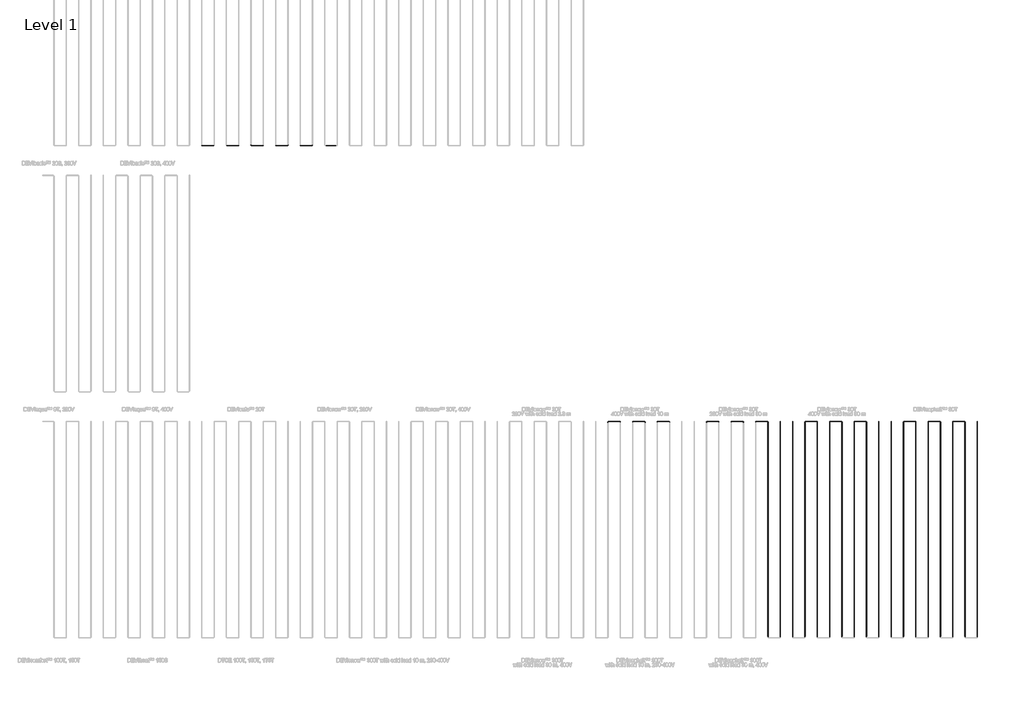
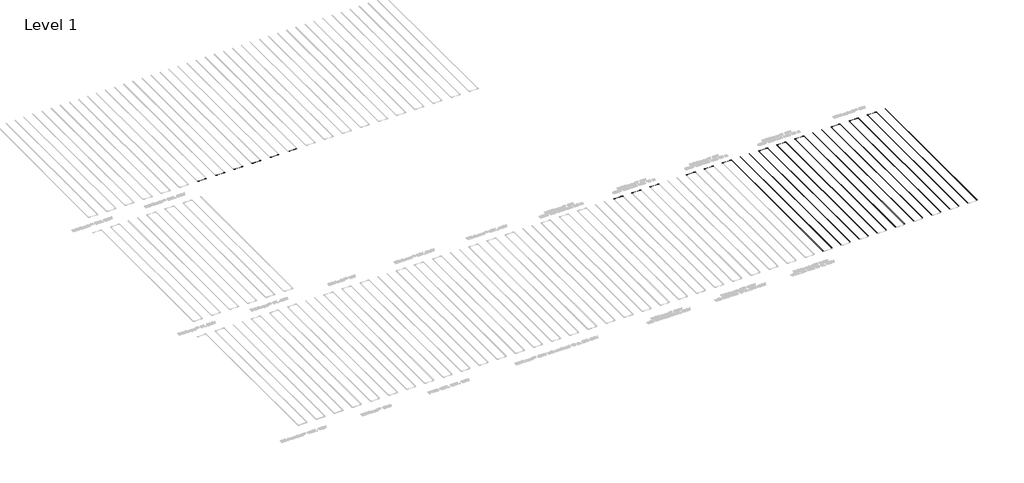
# One storey, part 7 of 26: 36 cable carrier segments, 34 cable carrier fittings.
"""IFC4 building model written with IfcOpenShell, lengths in millimetres."""

from ifc_helpers import new_model, si_unit, point, frame, frame_2d, origin, place, context, project, spatial, circle_curve, trimmed, segment, composite_curve, outline, extrude, transform, mapped, element, save
from components import cable_carrier_fitting_e4b1aeb6

model = new_model("IFC4")

# Units and contexts
model_context = context("Model", 3, world=origin())
ifc_project = project(units=[si_unit("LENGTHUNIT", "METRE", prefix="MILLI")], contexts=[model_context])

# Site, building, storey
site = spatial("IfcSite", under=ifc_project)
building = spatial("IfcBuilding", under=site)
storey = spatial("IfcBuildingStorey", under=building, Name="Level 1", Elevation=0.0)

# Cable carrier fittings
placement = place(None, origin())
cable_carrier_fitting_shape = cable_carrier_fitting_e4b1aeb6(model_context)
element("IfcCableCarrierFitting", 1, ObjectType="Danfoss Elbow : DEVIflex™ 30T", at=placement, inside=storey, context=model_context, shape_type="MappedRepresentation", body=[
    mapped(cable_carrier_fitting_shape, transform((412.6597555, -6738.7894079, -100.0), x_axis=(0.0, -1.0, 0.0), y_axis=(1.0, 0.0, 0.0), z_axis=(0.0, 0.0, 1.0))),
])
element("IfcCableCarrierFitting", 2, ObjectType="Danfoss Elbow : DEVIflex™ 30T", at=placement, inside=storey, context=model_context, shape_type="MappedRepresentation", body=[
    mapped(cable_carrier_fitting_shape, transform((912.6597555, -6738.7894079, -100.0), x_axis=(1.0, 0.0, 0.0), y_axis=(0.0, 1.0, 0.0), z_axis=(0.0, 0.0, 1.0))),
])
element("IfcCableCarrierFitting", 3, ObjectType="Danfoss Elbow : DEVIflex™ 30T", at=placement, inside=storey, context=model_context, shape_type="MappedRepresentation", body=[
    mapped(cable_carrier_fitting_shape, transform((1412.6597555, -6738.7894079, -100.0), x_axis=(0.0, -1.0, 0.0), y_axis=(1.0, 0.0, 0.0), z_axis=(0.0, 0.0, 1.0))),
])
element("IfcCableCarrierFitting", 4, ObjectType="Danfoss Elbow : DEVIflex™ 30T", at=placement, inside=storey, context=model_context, shape_type="MappedRepresentation", body=[
    mapped(cable_carrier_fitting_shape, transform((1912.6597555, -6738.7894079, -100.0), x_axis=(1.0, 0.0, 0.0), y_axis=(0.0, 1.0, 0.0), z_axis=(0.0, 0.0, 1.0))),
])
element("IfcCableCarrierFitting", 5, ObjectType="Danfoss Elbow : DEVIflex™ 30T", at=placement, inside=storey, context=model_context, shape_type="MappedRepresentation", body=[
    mapped(cable_carrier_fitting_shape, transform((2412.6597555, -6738.7894079, -100.0), x_axis=(0.0, -1.0, 0.0), y_axis=(1.0, 0.0, 0.0), z_axis=(0.0, 0.0, 1.0))),
])
element("IfcCableCarrierFitting", 6, ObjectType="Danfoss Elbow : DEVIflex™ 30T", at=placement, inside=storey, context=model_context, shape_type="MappedRepresentation", body=[
    mapped(cable_carrier_fitting_shape, transform((2912.6597555, -6738.7894079, -100.0), x_axis=(1.0, 0.0, 0.0), y_axis=(0.0, 1.0, 0.0), z_axis=(0.0, 0.0, 1.0))),
])
element("IfcCableCarrierFitting", 7, ObjectType="Danfoss Elbow : DEVIflex™ 30T", at=placement, inside=storey, context=model_context, shape_type="MappedRepresentation", body=[
    mapped(cable_carrier_fitting_shape, transform((3412.6597555, -6738.7894079, -100.0), x_axis=(0.0, -1.0, 0.0), y_axis=(1.0, 0.0, 0.0), z_axis=(0.0, 0.0, 1.0))),
])
element("IfcCableCarrierFitting", 8, ObjectType="Danfoss Elbow : DEVIflex™ 30T", at=placement, inside=storey, context=model_context, shape_type="MappedRepresentation", body=[
    mapped(cable_carrier_fitting_shape, transform((3912.6597555, -6738.7894079, -100.0), x_axis=(1.0, 0.0, 0.0), y_axis=(0.0, 1.0, 0.0), z_axis=(0.0, 0.0, 1.0))),
])
element("IfcCableCarrierFitting", 9, ObjectType="Danfoss Elbow : DEVIiceguard™ 18 (T) Ready-made", at=placement, inside=storey, context=model_context, shape_type="MappedRepresentation", body=[
    mapped(cable_carrier_fitting_shape, transform((4412.6597555, -6738.7894079, -100.0), x_axis=(0.0, -1.0, 0.0), y_axis=(1.0, 0.0, 0.0), z_axis=(0.0, 0.0, 1.0))),
])
element("IfcCableCarrierFitting", 10, ObjectType="Danfoss Elbow : DEVIiceguard™ 18 (T) Ready-made", at=placement, inside=storey, context=model_context, shape_type="MappedRepresentation", body=[
    mapped(cable_carrier_fitting_shape, transform((4912.6597555, -6738.7894079, -100.0), x_axis=(1.0, 0.0, 0.0), y_axis=(0.0, 1.0, 0.0), z_axis=(0.0, 0.0, 1.0))),
])
element("IfcCableCarrierFitting", 11, ObjectType="Danfoss Elbow : DEVIsnow™ 30T, 400V with cold lead 10 m", at=placement, inside=storey, context=model_context, shape_type="MappedRepresentation", body=[
    mapped(cable_carrier_fitting_shape, transform((16912.6597555, -17938.7894079, -100.0), x_axis=(-1.0, 0.0, 0.0), y_axis=(0.0, -1.0, 0.0), z_axis=(0.0, 0.0, 1.0))),
])
element("IfcCableCarrierFitting", 12, ObjectType="Danfoss Elbow : DEVIsnow™ 30T, 400V with cold lead 10 m", at=placement, inside=storey, context=model_context, shape_type="MappedRepresentation", body=[
    mapped(cable_carrier_fitting_shape, transform((17412.6597555, -17938.7894079, -100.0), x_axis=(0.0, 1.0, 0.0), y_axis=(-1.0, 0.0, 0.0), z_axis=(0.0, 0.0, 1.0))),
])
element("IfcCableCarrierFitting", 13, ObjectType="Danfoss Elbow : DEVIsnow™ 30T, 400V with cold lead 10 m", at=placement, inside=storey, context=model_context, shape_type="MappedRepresentation", body=[
    mapped(cable_carrier_fitting_shape, transform((17912.6597555, -17938.7894079, -100.0), x_axis=(-1.0, 0.0, 0.0), y_axis=(0.0, -1.0, 0.0), z_axis=(0.0, 0.0, 1.0))),
])
element("IfcCableCarrierFitting", 14, ObjectType="Danfoss Elbow : DEVIsnow™ 30T, 400V with cold lead 10 m", at=placement, inside=storey, context=model_context, shape_type="MappedRepresentation", body=[
    mapped(cable_carrier_fitting_shape, transform((18412.6597555, -17938.7894079, -100.0), x_axis=(0.0, 1.0, 0.0), y_axis=(-1.0, 0.0, 0.0), z_axis=(0.0, 0.0, 1.0))),
])
element("IfcCableCarrierFitting", 15, ObjectType="Danfoss Elbow : DEVIsnow™ 30T, 400V with cold lead 10 m", at=placement, inside=storey, context=model_context, shape_type="MappedRepresentation", body=[
    mapped(cable_carrier_fitting_shape, transform((18912.6597555, -17938.7894079, -100.0), x_axis=(-1.0, 0.0, 0.0), y_axis=(0.0, -1.0, 0.0), z_axis=(0.0, 0.0, 1.0))),
])
element("IfcCableCarrierFitting", 16, ObjectType="Danfoss Elbow : DEVIsnow™ 30T, 400V with cold lead 10 m", at=placement, inside=storey, context=model_context, shape_type="MappedRepresentation", body=[
    mapped(cable_carrier_fitting_shape, transform((19412.6597555, -17938.7894079, -100.0), x_axis=(0.0, 1.0, 0.0), y_axis=(-1.0, 0.0, 0.0), z_axis=(0.0, 0.0, 1.0))),
])
element("IfcCableCarrierFitting", 17, ObjectType="Danfoss Elbow : DEVIsnow™ 30T, 230V with cold lead 30 m", at=placement, inside=storey, context=model_context, shape_type="MappedRepresentation", body=[
    mapped(cable_carrier_fitting_shape, transform((20912.6597555, -17938.7894079, -100.0), x_axis=(-1.0, 0.0, 0.0), y_axis=(0.0, -1.0, 0.0), z_axis=(0.0, 0.0, 1.0))),
])
element("IfcCableCarrierFitting", 18, ObjectType="Danfoss Elbow : DEVIsnow™ 30T, 230V with cold lead 30 m", at=placement, inside=storey, context=model_context, shape_type="MappedRepresentation", body=[
    mapped(cable_carrier_fitting_shape, transform((21412.6597555, -17938.7894079, -100.0), x_axis=(0.0, 1.0, 0.0), y_axis=(-1.0, 0.0, 0.0), z_axis=(0.0, 0.0, 1.0))),
])
element("IfcCableCarrierFitting", 19, ObjectType="Danfoss Elbow : DEVIsnow™ 30T, 230V with cold lead 30 m", at=placement, inside=storey, context=model_context, shape_type="MappedRepresentation", body=[
    mapped(cable_carrier_fitting_shape, transform((21912.6597555, -17938.7894079, -100.0), x_axis=(-1.0, 0.0, 0.0), y_axis=(0.0, -1.0, 0.0), z_axis=(0.0, 0.0, 1.0))),
])
element("IfcCableCarrierFitting", 20, ObjectType="Danfoss Elbow : DEVIsnow™ 30T, 230V with cold lead 30 m", at=placement, inside=storey, context=model_context, shape_type="MappedRepresentation", body=[
    mapped(cable_carrier_fitting_shape, transform((22412.6597555, -17938.7894079, -100.0), x_axis=(0.0, 1.0, 0.0), y_axis=(-1.0, 0.0, 0.0), z_axis=(0.0, 0.0, 1.0))),
])
element("IfcCableCarrierFitting", 21, ObjectType="Danfoss Elbow : DEVIsnow™ 30T, 230V with cold lead 30 m", at=placement, inside=storey, context=model_context, shape_type="MappedRepresentation", body=[
    mapped(cable_carrier_fitting_shape, transform((22912.6597555, -17938.7894079, -100.0), x_axis=(-1.0, 0.0, 0.0), y_axis=(0.0, -1.0, 0.0), z_axis=(0.0, 0.0, 1.0))),
])
element("IfcCableCarrierFitting", 22, ObjectType="Danfoss Elbow : DEVIsnow™ 30T, 230V with cold lead 30 m", at=placement, inside=storey, context=model_context, shape_type="MappedRepresentation", body=[
    mapped(cable_carrier_fitting_shape, transform((23412.6597555, -17938.7894079, -100.0), x_axis=(0.0, 1.0, 0.0), y_axis=(-1.0, 0.0, 0.0), z_axis=(0.0, 0.0, 1.0))),
])
element("IfcCableCarrierFitting", 23, ObjectType="Danfoss Elbow : DEVIsnow™ 30T, 400V with cold lead 30 m", at=placement, inside=storey, context=model_context, shape_type="MappedRepresentation", body=[
    mapped(cable_carrier_fitting_shape, transform((24912.6597555, -17938.7894079, -100.0), x_axis=(-1.0, 0.0, 0.0), y_axis=(0.0, -1.0, 0.0), z_axis=(0.0, 0.0, 1.0))),
])
element("IfcCableCarrierFitting", 24, ObjectType="Danfoss Elbow : DEVIsnow™ 30T, 400V with cold lead 30 m", at=placement, inside=storey, context=model_context, shape_type="MappedRepresentation", body=[
    mapped(cable_carrier_fitting_shape, transform((25412.6597555, -17938.7894079, -100.0), x_axis=(0.0, 1.0, 0.0), y_axis=(-1.0, 0.0, 0.0), z_axis=(0.0, 0.0, 1.0))),
])
element("IfcCableCarrierFitting", 25, ObjectType="Danfoss Elbow : DEVIsnow™ 30T, 400V with cold lead 30 m", at=placement, inside=storey, context=model_context, shape_type="MappedRepresentation", body=[
    mapped(cable_carrier_fitting_shape, transform((25912.6597555, -17938.7894079, -100.0), x_axis=(-1.0, 0.0, 0.0), y_axis=(0.0, -1.0, 0.0), z_axis=(0.0, 0.0, 1.0))),
])
element("IfcCableCarrierFitting", 26, ObjectType="Danfoss Elbow : DEVIsnow™ 30T, 400V with cold lead 30 m", at=placement, inside=storey, context=model_context, shape_type="MappedRepresentation", body=[
    mapped(cable_carrier_fitting_shape, transform((26412.6597555, -17938.7894079, -100.0), x_axis=(0.0, 1.0, 0.0), y_axis=(-1.0, 0.0, 0.0), z_axis=(0.0, 0.0, 1.0))),
])
element("IfcCableCarrierFitting", 27, ObjectType="Danfoss Elbow : DEVIsnow™ 30T, 400V with cold lead 30 m", at=placement, inside=storey, context=model_context, shape_type="MappedRepresentation", body=[
    mapped(cable_carrier_fitting_shape, transform((26912.6597555, -17938.7894079, -100.0), x_axis=(-1.0, 0.0, 0.0), y_axis=(0.0, -1.0, 0.0), z_axis=(0.0, 0.0, 1.0))),
])
element("IfcCableCarrierFitting", 28, ObjectType="Danfoss Elbow : DEVIsnow™ 30T, 400V with cold lead 30 m", at=placement, inside=storey, context=model_context, shape_type="MappedRepresentation", body=[
    mapped(cable_carrier_fitting_shape, transform((27412.6597555, -17938.7894079, -100.0), x_axis=(0.0, 1.0, 0.0), y_axis=(-1.0, 0.0, 0.0), z_axis=(0.0, 0.0, 1.0))),
])
element("IfcCableCarrierFitting", 29, ObjectType="Danfoss Elbow : DEVIasphalt™ 30T", at=placement, inside=storey, context=model_context, shape_type="MappedRepresentation", body=[
    mapped(cable_carrier_fitting_shape, transform((28912.6597555, -17938.7894079, -100.0), x_axis=(-1.0, 0.0, 0.0), y_axis=(0.0, -1.0, 0.0), z_axis=(0.0, 0.0, 1.0))),
])
element("IfcCableCarrierFitting", 30, ObjectType="Danfoss Elbow : DEVIasphalt™ 30T", at=placement, inside=storey, context=model_context, shape_type="MappedRepresentation", body=[
    mapped(cable_carrier_fitting_shape, transform((29412.6597555, -17938.7894079, -100.0), x_axis=(0.0, 1.0, 0.0), y_axis=(-1.0, 0.0, 0.0), z_axis=(0.0, 0.0, 1.0))),
])
element("IfcCableCarrierFitting", 31, ObjectType="Danfoss Elbow : DEVIasphalt™ 30T", at=placement, inside=storey, context=model_context, shape_type="MappedRepresentation", body=[
    mapped(cable_carrier_fitting_shape, transform((29912.6597555, -17938.7894079, -100.0), x_axis=(-1.0, 0.0, 0.0), y_axis=(0.0, -1.0, 0.0), z_axis=(0.0, 0.0, 1.0))),
])
element("IfcCableCarrierFitting", 32, ObjectType="Danfoss Elbow : DEVIasphalt™ 30T", at=placement, inside=storey, context=model_context, shape_type="MappedRepresentation", body=[
    mapped(cable_carrier_fitting_shape, transform((30412.6597555, -17938.7894079, -100.0), x_axis=(0.0, 1.0, 0.0), y_axis=(-1.0, 0.0, 0.0), z_axis=(0.0, 0.0, 1.0))),
])
element("IfcCableCarrierFitting", 33, ObjectType="Danfoss Elbow : DEVIasphalt™ 30T", at=placement, inside=storey, context=model_context, shape_type="MappedRepresentation", body=[
    mapped(cable_carrier_fitting_shape, transform((30912.6597555, -17938.7894079, -100.0), x_axis=(-1.0, 0.0, 0.0), y_axis=(0.0, -1.0, 0.0), z_axis=(0.0, 0.0, 1.0))),
])
element("IfcCableCarrierFitting", 34, ObjectType="Danfoss Elbow : DEVIasphalt™ 30T", at=placement, inside=storey, context=model_context, shape_type="MappedRepresentation", body=[
    mapped(cable_carrier_fitting_shape, transform((31412.6597555, -17938.7894079, -100.0), x_axis=(0.0, 1.0, 0.0), y_axis=(-1.0, 0.0, 0.0), z_axis=(0.0, 0.0, 1.0))),
])

# Cable carrier segments
element("IfcCableCarrierSegment", 35, ObjectType="DEVIflex™ 30T", at=placement, inside=storey, context=model_context, shape_type="SweptSolid", body=[
    extrude(outline(composite_curve([segment(trimmed(circle_curve(frame_2d((-6738.7894079, -100.0)), 3.45), [point((-6742.2394079, -100.0))], [point((-6738.7894079, -96.55))], False, "CARTESIAN"), True, "CONTINUOUS"), segment(trimmed(circle_curve(frame_2d((-6738.7894079, -100.0)), 3.45), [point((-6738.7894079, -96.55))], [point((-6735.3394079, -100.0))], False, "CARTESIAN"), True, "CONTINUOUS"), segment(trimmed(circle_curve(frame_2d((-6738.7894079, -100.0)), 3.45), [point((-6735.3394079, -100.0))], [point((-6738.7894079, -103.45))], False, "CARTESIAN"), True, "CONTINUOUS"), segment(trimmed(circle_curve(frame_2d((-6738.7894079, -100.0)), 3.45), [point((-6738.7894079, -103.45))], [point((-6742.2394079, -100.0))], False, "CARTESIAN"), True, "CONTINUOUS")], self_intersect=False)), frame((447.6597555, 0.0, 0.0), z_axis=(1.0, 0.0, 0.0), x_axis=(0.0, 1.0, 0.0)), (0.0, 0.0, 1.0), 430.0),
])
element("IfcCableCarrierSegment", 36, ObjectType="DEVIflex™ 30T", at=placement, inside=storey, context=model_context, shape_type="SweptSolid", body=[
    extrude(outline(composite_curve([segment(trimmed(circle_curve(frame_2d((-6738.7894079, -100.0)), 3.45), [point((-6742.2394079, -100.0))], [point((-6738.7894079, -96.55))], False, "CARTESIAN"), True, "CONTINUOUS"), segment(trimmed(circle_curve(frame_2d((-6738.7894079, -100.0)), 3.45), [point((-6738.7894079, -96.55))], [point((-6735.3394079, -100.0))], False, "CARTESIAN"), True, "CONTINUOUS"), segment(trimmed(circle_curve(frame_2d((-6738.7894079, -100.0)), 3.45), [point((-6735.3394079, -100.0))], [point((-6738.7894079, -103.45))], False, "CARTESIAN"), True, "CONTINUOUS"), segment(trimmed(circle_curve(frame_2d((-6738.7894079, -100.0)), 3.45), [point((-6738.7894079, -103.45))], [point((-6742.2394079, -100.0))], False, "CARTESIAN"), True, "CONTINUOUS")], self_intersect=False)), frame((1447.6597555, 0.0, 0.0), z_axis=(1.0, 0.0, 0.0), x_axis=(0.0, 1.0, 0.0)), (0.0, 0.0, 1.0), 430.0),
])
element("IfcCableCarrierSegment", 37, ObjectType="DEVIflex™ 30T", at=placement, inside=storey, context=model_context, shape_type="SweptSolid", body=[
    extrude(outline(composite_curve([segment(trimmed(circle_curve(frame_2d((-6738.7894079, -100.0)), 3.45), [point((-6742.2394079, -100.0))], [point((-6738.7894079, -96.55))], False, "CARTESIAN"), True, "CONTINUOUS"), segment(trimmed(circle_curve(frame_2d((-6738.7894079, -100.0)), 3.45), [point((-6738.7894079, -96.55))], [point((-6735.3394079, -100.0))], False, "CARTESIAN"), True, "CONTINUOUS"), segment(trimmed(circle_curve(frame_2d((-6738.7894079, -100.0)), 3.45), [point((-6735.3394079, -100.0))], [point((-6738.7894079, -103.45))], False, "CARTESIAN"), True, "CONTINUOUS"), segment(trimmed(circle_curve(frame_2d((-6738.7894079, -100.0)), 3.45), [point((-6738.7894079, -103.45))], [point((-6742.2394079, -100.0))], False, "CARTESIAN"), True, "CONTINUOUS")], self_intersect=False)), frame((2447.6597555, 0.0, 0.0), z_axis=(1.0, 0.0, 0.0), x_axis=(0.0, 1.0, 0.0)), (0.0, 0.0, 1.0), 430.0),
])
element("IfcCableCarrierSegment", 38, ObjectType="DEVIflex™ 30T", at=placement, inside=storey, context=model_context, shape_type="SweptSolid", body=[
    extrude(outline(composite_curve([segment(trimmed(circle_curve(frame_2d((-6738.7894079, -100.0)), 3.45), [point((-6742.2394079, -100.0))], [point((-6738.7894079, -96.55))], False, "CARTESIAN"), True, "CONTINUOUS"), segment(trimmed(circle_curve(frame_2d((-6738.7894079, -100.0)), 3.45), [point((-6738.7894079, -96.55))], [point((-6735.3394079, -100.0))], False, "CARTESIAN"), True, "CONTINUOUS"), segment(trimmed(circle_curve(frame_2d((-6738.7894079, -100.0)), 3.45), [point((-6735.3394079, -100.0))], [point((-6738.7894079, -103.45))], False, "CARTESIAN"), True, "CONTINUOUS"), segment(trimmed(circle_curve(frame_2d((-6738.7894079, -100.0)), 3.45), [point((-6738.7894079, -103.45))], [point((-6742.2394079, -100.0))], False, "CARTESIAN"), True, "CONTINUOUS")], self_intersect=False)), frame((3447.6597555, 0.0, 0.0), z_axis=(1.0, 0.0, 0.0), x_axis=(0.0, 1.0, 0.0)), (0.0, 0.0, 1.0), 430.0),
])
element("IfcCableCarrierSegment", 39, ObjectType="DEVIiceguard™ 18 (T) Ready-made", at=placement, inside=storey, context=model_context, shape_type="SweptSolid", body=[
    extrude(outline(composite_curve([segment(trimmed(circle_curve(frame_2d((-6738.7894079, -100.0)), 3.45), [point((-6742.2394079, -100.0))], [point((-6738.7894079, -96.55))], False, "CARTESIAN"), True, "CONTINUOUS"), segment(trimmed(circle_curve(frame_2d((-6738.7894079, -100.0)), 3.45), [point((-6738.7894079, -96.55))], [point((-6735.3394079, -100.0))], False, "CARTESIAN"), True, "CONTINUOUS"), segment(trimmed(circle_curve(frame_2d((-6738.7894079, -100.0)), 3.45), [point((-6735.3394079, -100.0))], [point((-6738.7894079, -103.45))], False, "CARTESIAN"), True, "CONTINUOUS"), segment(trimmed(circle_curve(frame_2d((-6738.7894079, -100.0)), 3.45), [point((-6738.7894079, -103.45))], [point((-6742.2394079, -100.0))], False, "CARTESIAN"), True, "CONTINUOUS")], self_intersect=False)), frame((4447.6597555, 0.0, 0.0), z_axis=(1.0, 0.0, 0.0), x_axis=(0.0, 1.0, 0.0)), (0.0, 0.0, 1.0), 430.0),
])
element("IfcCableCarrierSegment", 40, ObjectType="DEVIiceguard™ 18 (T) Ready-made", at=placement, inside=storey, context=model_context, shape_type="SweptSolid", body=[
    extrude(outline(composite_curve([segment(trimmed(circle_curve(frame_2d((-6738.7894079, -100.0)), 3.45), [point((-6742.2394079, -100.0))], [point((-6738.7894079, -96.55))], False, "CARTESIAN"), True, "CONTINUOUS"), segment(trimmed(circle_curve(frame_2d((-6738.7894079, -100.0)), 3.45), [point((-6738.7894079, -96.55))], [point((-6735.3394079, -100.0))], False, "CARTESIAN"), True, "CONTINUOUS"), segment(trimmed(circle_curve(frame_2d((-6738.7894079, -100.0)), 3.45), [point((-6735.3394079, -100.0))], [point((-6738.7894079, -103.45))], False, "CARTESIAN"), True, "CONTINUOUS"), segment(trimmed(circle_curve(frame_2d((-6738.7894079, -100.0)), 3.45), [point((-6738.7894079, -103.45))], [point((-6742.2394079, -100.0))], False, "CARTESIAN"), True, "CONTINUOUS")], self_intersect=False)), frame((5447.6597555, 0.0, 0.0), z_axis=(1.0, 0.0, 0.0), x_axis=(0.0, 1.0, 0.0)), (0.0, 0.0, 1.0), 430.0),
])
element("IfcCableCarrierSegment", 41, ObjectType="DEVIsnow™ 30T, 400V with cold lead 10 m", at=placement, inside=storey, context=model_context, shape_type="SweptSolid", body=[
    extrude(outline(composite_curve([segment(trimmed(circle_curve(frame_2d((-17938.7894079, -100.0)), 3.45), [point((-17942.2394079, -100.0))], [point((-17938.7894079, -96.55))], False, "CARTESIAN"), True, "CONTINUOUS"), segment(trimmed(circle_curve(frame_2d((-17938.7894079, -100.0)), 3.45), [point((-17938.7894079, -96.55))], [point((-17935.3394079, -100.0))], False, "CARTESIAN"), True, "CONTINUOUS"), segment(trimmed(circle_curve(frame_2d((-17938.7894079, -100.0)), 3.45), [point((-17935.3394079, -100.0))], [point((-17938.7894079, -103.45))], False, "CARTESIAN"), True, "CONTINUOUS"), segment(trimmed(circle_curve(frame_2d((-17938.7894079, -100.0)), 3.45), [point((-17938.7894079, -103.45))], [point((-17942.2394079, -100.0))], False, "CARTESIAN"), True, "CONTINUOUS")], self_intersect=False)), frame((16947.6597555, 0.0, 0.0), z_axis=(1.0, 0.0, 0.0), x_axis=(0.0, 1.0, 0.0)), (0.0, 0.0, 1.0), 430.0),
])
element("IfcCableCarrierSegment", 42, ObjectType="DEVIsnow™ 30T, 400V with cold lead 10 m", at=placement, inside=storey, context=model_context, shape_type="SweptSolid", body=[
    extrude(outline(composite_curve([segment(trimmed(circle_curve(frame_2d((-17938.7894079, -100.0)), 3.45), [point((-17942.2394079, -100.0))], [point((-17938.7894079, -96.55))], False, "CARTESIAN"), True, "CONTINUOUS"), segment(trimmed(circle_curve(frame_2d((-17938.7894079, -100.0)), 3.45), [point((-17938.7894079, -96.55))], [point((-17935.3394079, -100.0))], False, "CARTESIAN"), True, "CONTINUOUS"), segment(trimmed(circle_curve(frame_2d((-17938.7894079, -100.0)), 3.45), [point((-17935.3394079, -100.0))], [point((-17938.7894079, -103.45))], False, "CARTESIAN"), True, "CONTINUOUS"), segment(trimmed(circle_curve(frame_2d((-17938.7894079, -100.0)), 3.45), [point((-17938.7894079, -103.45))], [point((-17942.2394079, -100.0))], False, "CARTESIAN"), True, "CONTINUOUS")], self_intersect=False)), frame((17947.6597555, 0.0, 0.0), z_axis=(1.0, 0.0, 0.0), x_axis=(0.0, 1.0, 0.0)), (0.0, 0.0, 1.0), 430.0),
])
element("IfcCableCarrierSegment", 43, ObjectType="DEVIsnow™ 30T, 400V with cold lead 10 m", at=placement, inside=storey, context=model_context, shape_type="SweptSolid", body=[
    extrude(outline(composite_curve([segment(trimmed(circle_curve(frame_2d((-17938.7894079, -100.0)), 3.45), [point((-17942.2394079, -100.0))], [point((-17938.7894079, -96.55))], False, "CARTESIAN"), True, "CONTINUOUS"), segment(trimmed(circle_curve(frame_2d((-17938.7894079, -100.0)), 3.45), [point((-17938.7894079, -96.55))], [point((-17935.3394079, -100.0))], False, "CARTESIAN"), True, "CONTINUOUS"), segment(trimmed(circle_curve(frame_2d((-17938.7894079, -100.0)), 3.45), [point((-17935.3394079, -100.0))], [point((-17938.7894079, -103.45))], False, "CARTESIAN"), True, "CONTINUOUS"), segment(trimmed(circle_curve(frame_2d((-17938.7894079, -100.0)), 3.45), [point((-17938.7894079, -103.45))], [point((-17942.2394079, -100.0))], False, "CARTESIAN"), True, "CONTINUOUS")], self_intersect=False)), frame((18947.6597555, 0.0, 0.0), z_axis=(1.0, 0.0, 0.0), x_axis=(0.0, 1.0, 0.0)), (0.0, 0.0, 1.0), 430.0),
])
element("IfcCableCarrierSegment", 44, ObjectType="DEVIsnow™ 30T, 230V with cold lead 30 m", at=placement, inside=storey, context=model_context, shape_type="SweptSolid", body=[
    extrude(outline(composite_curve([segment(trimmed(circle_curve(frame_2d((-17938.7894079, -100.0)), 3.45), [point((-17942.2394079, -100.0))], [point((-17938.7894079, -96.55))], False, "CARTESIAN"), True, "CONTINUOUS"), segment(trimmed(circle_curve(frame_2d((-17938.7894079, -100.0)), 3.45), [point((-17938.7894079, -96.55))], [point((-17935.3394079, -100.0))], False, "CARTESIAN"), True, "CONTINUOUS"), segment(trimmed(circle_curve(frame_2d((-17938.7894079, -100.0)), 3.45), [point((-17935.3394079, -100.0))], [point((-17938.7894079, -103.45))], False, "CARTESIAN"), True, "CONTINUOUS"), segment(trimmed(circle_curve(frame_2d((-17938.7894079, -100.0)), 3.45), [point((-17938.7894079, -103.45))], [point((-17942.2394079, -100.0))], False, "CARTESIAN"), True, "CONTINUOUS")], self_intersect=False)), frame((20947.6597555, 0.0, 0.0), z_axis=(1.0, 0.0, 0.0), x_axis=(0.0, 1.0, 0.0)), (0.0, 0.0, 1.0), 430.0),
])
element("IfcCableCarrierSegment", 45, ObjectType="DEVIsnow™ 30T, 230V with cold lead 30 m", at=placement, inside=storey, context=model_context, shape_type="SweptSolid", body=[
    extrude(outline(composite_curve([segment(trimmed(circle_curve(frame_2d((-17938.7894079, -100.0)), 3.45), [point((-17942.2394079, -100.0))], [point((-17938.7894079, -96.55))], False, "CARTESIAN"), True, "CONTINUOUS"), segment(trimmed(circle_curve(frame_2d((-17938.7894079, -100.0)), 3.45), [point((-17938.7894079, -96.55))], [point((-17935.3394079, -100.0))], False, "CARTESIAN"), True, "CONTINUOUS"), segment(trimmed(circle_curve(frame_2d((-17938.7894079, -100.0)), 3.45), [point((-17935.3394079, -100.0))], [point((-17938.7894079, -103.45))], False, "CARTESIAN"), True, "CONTINUOUS"), segment(trimmed(circle_curve(frame_2d((-17938.7894079, -100.0)), 3.45), [point((-17938.7894079, -103.45))], [point((-17942.2394079, -100.0))], False, "CARTESIAN"), True, "CONTINUOUS")], self_intersect=False)), frame((21947.6597555, 0.0, 0.0), z_axis=(1.0, 0.0, 0.0), x_axis=(0.0, 1.0, 0.0)), (0.0, 0.0, 1.0), 430.0),
])
element("IfcCableCarrierSegment", 46, ObjectType="DEVIsnow™ 30T, 230V with cold lead 30 m", at=placement, inside=storey, context=model_context, shape_type="SweptSolid", body=[
    extrude(outline(composite_curve([segment(trimmed(circle_curve(frame_2d((-17938.7894079, -100.0)), 3.45), [point((-17942.2394079, -100.0))], [point((-17938.7894079, -96.55))], False, "CARTESIAN"), True, "CONTINUOUS"), segment(trimmed(circle_curve(frame_2d((-17938.7894079, -100.0)), 3.45), [point((-17938.7894079, -96.55))], [point((-17935.3394079, -100.0))], False, "CARTESIAN"), True, "CONTINUOUS"), segment(trimmed(circle_curve(frame_2d((-17938.7894079, -100.0)), 3.45), [point((-17935.3394079, -100.0))], [point((-17938.7894079, -103.45))], False, "CARTESIAN"), True, "CONTINUOUS"), segment(trimmed(circle_curve(frame_2d((-17938.7894079, -100.0)), 3.45), [point((-17938.7894079, -103.45))], [point((-17942.2394079, -100.0))], False, "CARTESIAN"), True, "CONTINUOUS")], self_intersect=False)), frame((22947.6597555, 0.0, 0.0), z_axis=(1.0, 0.0, 0.0), x_axis=(0.0, 1.0, 0.0)), (0.0, 0.0, 1.0), 430.0),
])
element("IfcCableCarrierSegment", 47, ObjectType="DEVIsnow™ 30T, 230V with cold lead 30 m", at=placement, inside=storey, context=model_context, shape_type="SweptSolid", body=[
    extrude(outline(composite_curve([segment(trimmed(circle_curve(frame_2d((-100.0, 23412.6597555)), 3.45), [point((-100.0, 23409.2097555))], [point((-103.45, 23412.6597555))], False, "CARTESIAN"), True, "CONTINUOUS"), segment(trimmed(circle_curve(frame_2d((-100.0, 23412.6597555)), 3.45), [point((-103.45, 23412.6597555))], [point((-100.0, 23416.1097555))], False, "CARTESIAN"), True, "CONTINUOUS"), segment(trimmed(circle_curve(frame_2d((-100.0, 23412.6597555)), 3.45), [point((-100.0, 23416.1097555))], [point((-96.55, 23412.6597555))], False, "CARTESIAN"), True, "CONTINUOUS"), segment(trimmed(circle_curve(frame_2d((-100.0, 23412.6597555)), 3.45), [point((-96.55, 23412.6597555))], [point((-100.0, 23409.2097555))], False, "CARTESIAN"), True, "CONTINUOUS")], self_intersect=False)), frame((0.0, -26703.7894079, 0.0), z_axis=(0.0, 1.0, 0.0), x_axis=(0.0, 0.0, 1.0)), (0.0, 0.0, 1.0), 8730.0),
])
element("IfcCableCarrierSegment", 48, ObjectType="DEVIsnow™ 30T, 230V with cold lead 30 m", at=placement, inside=storey, context=model_context, shape_type="SweptSolid", body=[
    extrude(outline(composite_curve([segment(trimmed(circle_curve(frame_2d((-100.0, 23912.6597555)), 3.45), [point((-100.0, 23916.1097555))], [point((-96.55, 23912.6597555))], False, "CARTESIAN"), True, "CONTINUOUS"), segment(trimmed(circle_curve(frame_2d((-100.0, 23912.6597555)), 3.45), [point((-96.55, 23912.6597555))], [point((-100.0, 23909.2097555))], False, "CARTESIAN"), True, "CONTINUOUS"), segment(trimmed(circle_curve(frame_2d((-100.0, 23912.6597555)), 3.45), [point((-100.0, 23909.2097555))], [point((-103.45, 23912.6597555))], False, "CARTESIAN"), True, "CONTINUOUS"), segment(trimmed(circle_curve(frame_2d((-100.0, 23912.6597555)), 3.45), [point((-103.45, 23912.6597555))], [point((-100.0, 23916.1097555))], False, "CARTESIAN"), True, "CONTINUOUS")], self_intersect=False)), frame((0.0, -26703.7894079, 0.0), z_axis=(0.0, 1.0, 0.0), x_axis=(0.0, 0.0, 1.0)), (0.0, 0.0, 1.0), 8765.0),
])
element("IfcCableCarrierSegment", 49, ObjectType="DEVIsnow™ 30T, 400V with cold lead 30 m", at=placement, inside=storey, context=model_context, shape_type="SweptSolid", body=[
    extrude(outline(composite_curve([segment(trimmed(circle_curve(frame_2d((-100.0, 24412.6597555)), 3.45), [point((-100.0, 24409.2097555))], [point((-103.45, 24412.6597555))], False, "CARTESIAN"), True, "CONTINUOUS"), segment(trimmed(circle_curve(frame_2d((-100.0, 24412.6597555)), 3.45), [point((-103.45, 24412.6597555))], [point((-100.0, 24416.1097555))], False, "CARTESIAN"), True, "CONTINUOUS"), segment(trimmed(circle_curve(frame_2d((-100.0, 24412.6597555)), 3.45), [point((-100.0, 24416.1097555))], [point((-96.55, 24412.6597555))], False, "CARTESIAN"), True, "CONTINUOUS"), segment(trimmed(circle_curve(frame_2d((-100.0, 24412.6597555)), 3.45), [point((-96.55, 24412.6597555))], [point((-100.0, 24409.2097555))], False, "CARTESIAN"), True, "CONTINUOUS")], self_intersect=False)), frame((0.0, -26703.7894079, 0.0), z_axis=(0.0, 1.0, 0.0), x_axis=(0.0, 0.0, 1.0)), (0.0, 0.0, 1.0), 8765.0),
])
element("IfcCableCarrierSegment", 50, ObjectType="DEVIsnow™ 30T, 400V with cold lead 30 m", at=placement, inside=storey, context=model_context, shape_type="SweptSolid", body=[
    extrude(outline(composite_curve([segment(trimmed(circle_curve(frame_2d((-100.0, 24912.6597555)), 3.45), [point((-100.0, 24916.1097555))], [point((-96.55, 24912.6597555))], False, "CARTESIAN"), True, "CONTINUOUS"), segment(trimmed(circle_curve(frame_2d((-100.0, 24912.6597555)), 3.45), [point((-96.55, 24912.6597555))], [point((-100.0, 24909.2097555))], False, "CARTESIAN"), True, "CONTINUOUS"), segment(trimmed(circle_curve(frame_2d((-100.0, 24912.6597555)), 3.45), [point((-100.0, 24909.2097555))], [point((-103.45, 24912.6597555))], False, "CARTESIAN"), True, "CONTINUOUS"), segment(trimmed(circle_curve(frame_2d((-100.0, 24912.6597555)), 3.45), [point((-103.45, 24912.6597555))], [point((-100.0, 24916.1097555))], False, "CARTESIAN"), True, "CONTINUOUS")], self_intersect=False)), frame((0.0, -26703.7894079, 0.0), z_axis=(0.0, 1.0, 0.0), x_axis=(0.0, 0.0, 1.0)), (0.0, 0.0, 1.0), 8730.0),
])
element("IfcCableCarrierSegment", 51, ObjectType="DEVIsnow™ 30T, 400V with cold lead 30 m", at=placement, inside=storey, context=model_context, shape_type="SweptSolid", body=[
    extrude(outline(composite_curve([segment(trimmed(circle_curve(frame_2d((-17938.7894079, -100.0)), 3.45), [point((-17942.2394079, -100.0))], [point((-17938.7894079, -96.55))], False, "CARTESIAN"), True, "CONTINUOUS"), segment(trimmed(circle_curve(frame_2d((-17938.7894079, -100.0)), 3.45), [point((-17938.7894079, -96.55))], [point((-17935.3394079, -100.0))], False, "CARTESIAN"), True, "CONTINUOUS"), segment(trimmed(circle_curve(frame_2d((-17938.7894079, -100.0)), 3.45), [point((-17935.3394079, -100.0))], [point((-17938.7894079, -103.45))], False, "CARTESIAN"), True, "CONTINUOUS"), segment(trimmed(circle_curve(frame_2d((-17938.7894079, -100.0)), 3.45), [point((-17938.7894079, -103.45))], [point((-17942.2394079, -100.0))], False, "CARTESIAN"), True, "CONTINUOUS")], self_intersect=False)), frame((24947.6597555, 0.0, 0.0), z_axis=(1.0, 0.0, 0.0), x_axis=(0.0, 1.0, 0.0)), (0.0, 0.0, 1.0), 430.0),
])
element("IfcCableCarrierSegment", 52, ObjectType="DEVIsnow™ 30T, 400V with cold lead 30 m", at=placement, inside=storey, context=model_context, shape_type="SweptSolid", body=[
    extrude(outline(composite_curve([segment(trimmed(circle_curve(frame_2d((-100.0, 25412.6597555)), 3.45), [point((-100.0, 25409.2097555))], [point((-103.45, 25412.6597555))], False, "CARTESIAN"), True, "CONTINUOUS"), segment(trimmed(circle_curve(frame_2d((-100.0, 25412.6597555)), 3.45), [point((-103.45, 25412.6597555))], [point((-100.0, 25416.1097555))], False, "CARTESIAN"), True, "CONTINUOUS"), segment(trimmed(circle_curve(frame_2d((-100.0, 25412.6597555)), 3.45), [point((-100.0, 25416.1097555))], [point((-96.55, 25412.6597555))], False, "CARTESIAN"), True, "CONTINUOUS"), segment(trimmed(circle_curve(frame_2d((-100.0, 25412.6597555)), 3.45), [point((-96.55, 25412.6597555))], [point((-100.0, 25409.2097555))], False, "CARTESIAN"), True, "CONTINUOUS")], self_intersect=False)), frame((0.0, -26703.7894079, 0.0), z_axis=(0.0, 1.0, 0.0), x_axis=(0.0, 0.0, 1.0)), (0.0, 0.0, 1.0), 8730.0),
])
element("IfcCableCarrierSegment", 53, ObjectType="DEVIsnow™ 30T, 400V with cold lead 30 m", at=placement, inside=storey, context=model_context, shape_type="SweptSolid", body=[
    extrude(outline(composite_curve([segment(trimmed(circle_curve(frame_2d((-100.0, 25912.6597555)), 3.45), [point((-100.0, 25916.1097555))], [point((-96.55, 25912.6597555))], False, "CARTESIAN"), True, "CONTINUOUS"), segment(trimmed(circle_curve(frame_2d((-100.0, 25912.6597555)), 3.45), [point((-96.55, 25912.6597555))], [point((-100.0, 25909.2097555))], False, "CARTESIAN"), True, "CONTINUOUS"), segment(trimmed(circle_curve(frame_2d((-100.0, 25912.6597555)), 3.45), [point((-100.0, 25909.2097555))], [point((-103.45, 25912.6597555))], False, "CARTESIAN"), True, "CONTINUOUS"), segment(trimmed(circle_curve(frame_2d((-100.0, 25912.6597555)), 3.45), [point((-103.45, 25912.6597555))], [point((-100.0, 25916.1097555))], False, "CARTESIAN"), True, "CONTINUOUS")], self_intersect=False)), frame((0.0, -26703.7894079, 0.0), z_axis=(0.0, 1.0, 0.0), x_axis=(0.0, 0.0, 1.0)), (0.0, 0.0, 1.0), 8730.0),
])
element("IfcCableCarrierSegment", 54, ObjectType="DEVIsnow™ 30T, 400V with cold lead 30 m", at=placement, inside=storey, context=model_context, shape_type="SweptSolid", body=[
    extrude(outline(composite_curve([segment(trimmed(circle_curve(frame_2d((-17938.7894079, -100.0)), 3.45), [point((-17942.2394079, -100.0))], [point((-17938.7894079, -96.55))], False, "CARTESIAN"), True, "CONTINUOUS"), segment(trimmed(circle_curve(frame_2d((-17938.7894079, -100.0)), 3.45), [point((-17938.7894079, -96.55))], [point((-17935.3394079, -100.0))], False, "CARTESIAN"), True, "CONTINUOUS"), segment(trimmed(circle_curve(frame_2d((-17938.7894079, -100.0)), 3.45), [point((-17935.3394079, -100.0))], [point((-17938.7894079, -103.45))], False, "CARTESIAN"), True, "CONTINUOUS"), segment(trimmed(circle_curve(frame_2d((-17938.7894079, -100.0)), 3.45), [point((-17938.7894079, -103.45))], [point((-17942.2394079, -100.0))], False, "CARTESIAN"), True, "CONTINUOUS")], self_intersect=False)), frame((25947.6597555, 0.0, 0.0), z_axis=(1.0, 0.0, 0.0), x_axis=(0.0, 1.0, 0.0)), (0.0, 0.0, 1.0), 430.0),
])
element("IfcCableCarrierSegment", 55, ObjectType="DEVIsnow™ 30T, 400V with cold lead 30 m", at=placement, inside=storey, context=model_context, shape_type="SweptSolid", body=[
    extrude(outline(composite_curve([segment(trimmed(circle_curve(frame_2d((-100.0, 26412.6597555)), 3.45), [point((-100.0, 26409.2097555))], [point((-103.45, 26412.6597555))], False, "CARTESIAN"), True, "CONTINUOUS"), segment(trimmed(circle_curve(frame_2d((-100.0, 26412.6597555)), 3.45), [point((-103.45, 26412.6597555))], [point((-100.0, 26416.1097555))], False, "CARTESIAN"), True, "CONTINUOUS"), segment(trimmed(circle_curve(frame_2d((-100.0, 26412.6597555)), 3.45), [point((-100.0, 26416.1097555))], [point((-96.55, 26412.6597555))], False, "CARTESIAN"), True, "CONTINUOUS"), segment(trimmed(circle_curve(frame_2d((-100.0, 26412.6597555)), 3.45), [point((-96.55, 26412.6597555))], [point((-100.0, 26409.2097555))], False, "CARTESIAN"), True, "CONTINUOUS")], self_intersect=False)), frame((0.0, -26703.7894079, 0.0), z_axis=(0.0, 1.0, 0.0), x_axis=(0.0, 0.0, 1.0)), (0.0, 0.0, 1.0), 8730.0),
])
element("IfcCableCarrierSegment", 56, ObjectType="DEVIsnow™ 30T, 400V with cold lead 30 m", at=placement, inside=storey, context=model_context, shape_type="SweptSolid", body=[
    extrude(outline(composite_curve([segment(trimmed(circle_curve(frame_2d((-100.0, 26912.6597555)), 3.45), [point((-100.0, 26916.1097555))], [point((-96.55, 26912.6597555))], False, "CARTESIAN"), True, "CONTINUOUS"), segment(trimmed(circle_curve(frame_2d((-100.0, 26912.6597555)), 3.45), [point((-96.55, 26912.6597555))], [point((-100.0, 26909.2097555))], False, "CARTESIAN"), True, "CONTINUOUS"), segment(trimmed(circle_curve(frame_2d((-100.0, 26912.6597555)), 3.45), [point((-100.0, 26909.2097555))], [point((-103.45, 26912.6597555))], False, "CARTESIAN"), True, "CONTINUOUS"), segment(trimmed(circle_curve(frame_2d((-100.0, 26912.6597555)), 3.45), [point((-103.45, 26912.6597555))], [point((-100.0, 26916.1097555))], False, "CARTESIAN"), True, "CONTINUOUS")], self_intersect=False)), frame((0.0, -26703.7894079, 0.0), z_axis=(0.0, 1.0, 0.0), x_axis=(0.0, 0.0, 1.0)), (0.0, 0.0, 1.0), 8730.0),
])
element("IfcCableCarrierSegment", 57, ObjectType="DEVIsnow™ 30T, 400V with cold lead 30 m", at=placement, inside=storey, context=model_context, shape_type="SweptSolid", body=[
    extrude(outline(composite_curve([segment(trimmed(circle_curve(frame_2d((-17938.7894079, -100.0)), 3.45), [point((-17942.2394079, -100.0))], [point((-17938.7894079, -96.55))], False, "CARTESIAN"), True, "CONTINUOUS"), segment(trimmed(circle_curve(frame_2d((-17938.7894079, -100.0)), 3.45), [point((-17938.7894079, -96.55))], [point((-17935.3394079, -100.0))], False, "CARTESIAN"), True, "CONTINUOUS"), segment(trimmed(circle_curve(frame_2d((-17938.7894079, -100.0)), 3.45), [point((-17935.3394079, -100.0))], [point((-17938.7894079, -103.45))], False, "CARTESIAN"), True, "CONTINUOUS"), segment(trimmed(circle_curve(frame_2d((-17938.7894079, -100.0)), 3.45), [point((-17938.7894079, -103.45))], [point((-17942.2394079, -100.0))], False, "CARTESIAN"), True, "CONTINUOUS")], self_intersect=False)), frame((26947.6597555, 0.0, 0.0), z_axis=(1.0, 0.0, 0.0), x_axis=(0.0, 1.0, 0.0)), (0.0, 0.0, 1.0), 430.0),
])
element("IfcCableCarrierSegment", 58, ObjectType="DEVIsnow™ 30T, 400V with cold lead 30 m", at=placement, inside=storey, context=model_context, shape_type="SweptSolid", body=[
    extrude(outline(composite_curve([segment(trimmed(circle_curve(frame_2d((-100.0, 27412.6597555)), 3.45), [point((-100.0, 27409.2097555))], [point((-103.45, 27412.6597555))], False, "CARTESIAN"), True, "CONTINUOUS"), segment(trimmed(circle_curve(frame_2d((-100.0, 27412.6597555)), 3.45), [point((-103.45, 27412.6597555))], [point((-100.0, 27416.1097555))], False, "CARTESIAN"), True, "CONTINUOUS"), segment(trimmed(circle_curve(frame_2d((-100.0, 27412.6597555)), 3.45), [point((-100.0, 27416.1097555))], [point((-96.55, 27412.6597555))], False, "CARTESIAN"), True, "CONTINUOUS"), segment(trimmed(circle_curve(frame_2d((-100.0, 27412.6597555)), 3.45), [point((-96.55, 27412.6597555))], [point((-100.0, 27409.2097555))], False, "CARTESIAN"), True, "CONTINUOUS")], self_intersect=False)), frame((0.0, -26703.7894079, 0.0), z_axis=(0.0, 1.0, 0.0), x_axis=(0.0, 0.0, 1.0)), (0.0, 0.0, 1.0), 8730.0),
])
element("IfcCableCarrierSegment", 59, ObjectType="DEVIsnow™ 30T, 400V with cold lead 30 m", at=placement, inside=storey, context=model_context, shape_type="SweptSolid", body=[
    extrude(outline(composite_curve([segment(trimmed(circle_curve(frame_2d((-100.0, 27912.6597555)), 3.45), [point((-100.0, 27916.1097555))], [point((-96.55, 27912.6597555))], False, "CARTESIAN"), True, "CONTINUOUS"), segment(trimmed(circle_curve(frame_2d((-100.0, 27912.6597555)), 3.45), [point((-96.55, 27912.6597555))], [point((-100.0, 27909.2097555))], False, "CARTESIAN"), True, "CONTINUOUS"), segment(trimmed(circle_curve(frame_2d((-100.0, 27912.6597555)), 3.45), [point((-100.0, 27909.2097555))], [point((-103.45, 27912.6597555))], False, "CARTESIAN"), True, "CONTINUOUS"), segment(trimmed(circle_curve(frame_2d((-100.0, 27912.6597555)), 3.45), [point((-103.45, 27912.6597555))], [point((-100.0, 27916.1097555))], False, "CARTESIAN"), True, "CONTINUOUS")], self_intersect=False)), frame((0.0, -26703.7894079, 0.0), z_axis=(0.0, 1.0, 0.0), x_axis=(0.0, 0.0, 1.0)), (0.0, 0.0, 1.0), 8765.0),
])
element("IfcCableCarrierSegment", 60, ObjectType="DEVIasphalt™ 30T", at=placement, inside=storey, context=model_context, shape_type="SweptSolid", body=[
    extrude(outline(composite_curve([segment(trimmed(circle_curve(frame_2d((-100.0, 28412.6597555)), 3.45), [point((-100.0, 28409.2097555))], [point((-103.45, 28412.6597555))], False, "CARTESIAN"), True, "CONTINUOUS"), segment(trimmed(circle_curve(frame_2d((-100.0, 28412.6597555)), 3.45), [point((-103.45, 28412.6597555))], [point((-100.0, 28416.1097555))], False, "CARTESIAN"), True, "CONTINUOUS"), segment(trimmed(circle_curve(frame_2d((-100.0, 28412.6597555)), 3.45), [point((-100.0, 28416.1097555))], [point((-96.55, 28412.6597555))], False, "CARTESIAN"), True, "CONTINUOUS"), segment(trimmed(circle_curve(frame_2d((-100.0, 28412.6597555)), 3.45), [point((-96.55, 28412.6597555))], [point((-100.0, 28409.2097555))], False, "CARTESIAN"), True, "CONTINUOUS")], self_intersect=False)), frame((0.0, -26703.7894079, 0.0), z_axis=(0.0, 1.0, 0.0), x_axis=(0.0, 0.0, 1.0)), (0.0, 0.0, 1.0), 8765.0),
])
element("IfcCableCarrierSegment", 61, ObjectType="DEVIasphalt™ 30T", at=placement, inside=storey, context=model_context, shape_type="SweptSolid", body=[
    extrude(outline(composite_curve([segment(trimmed(circle_curve(frame_2d((-100.0, 28912.6597555)), 3.45), [point((-100.0, 28916.1097555))], [point((-96.55, 28912.6597555))], False, "CARTESIAN"), True, "CONTINUOUS"), segment(trimmed(circle_curve(frame_2d((-100.0, 28912.6597555)), 3.45), [point((-96.55, 28912.6597555))], [point((-100.0, 28909.2097555))], False, "CARTESIAN"), True, "CONTINUOUS"), segment(trimmed(circle_curve(frame_2d((-100.0, 28912.6597555)), 3.45), [point((-100.0, 28909.2097555))], [point((-103.45, 28912.6597555))], False, "CARTESIAN"), True, "CONTINUOUS"), segment(trimmed(circle_curve(frame_2d((-100.0, 28912.6597555)), 3.45), [point((-103.45, 28912.6597555))], [point((-100.0, 28916.1097555))], False, "CARTESIAN"), True, "CONTINUOUS")], self_intersect=False)), frame((0.0, -26703.7894079, 0.0), z_axis=(0.0, 1.0, 0.0), x_axis=(0.0, 0.0, 1.0)), (0.0, 0.0, 1.0), 8730.0),
])
element("IfcCableCarrierSegment", 62, ObjectType="DEVIasphalt™ 30T", at=placement, inside=storey, context=model_context, shape_type="SweptSolid", body=[
    extrude(outline(composite_curve([segment(trimmed(circle_curve(frame_2d((-17938.7894079, -100.0)), 3.45), [point((-17942.2394079, -100.0))], [point((-17938.7894079, -96.55))], False, "CARTESIAN"), True, "CONTINUOUS"), segment(trimmed(circle_curve(frame_2d((-17938.7894079, -100.0)), 3.45), [point((-17938.7894079, -96.55))], [point((-17935.3394079, -100.0))], False, "CARTESIAN"), True, "CONTINUOUS"), segment(trimmed(circle_curve(frame_2d((-17938.7894079, -100.0)), 3.45), [point((-17935.3394079, -100.0))], [point((-17938.7894079, -103.45))], False, "CARTESIAN"), True, "CONTINUOUS"), segment(trimmed(circle_curve(frame_2d((-17938.7894079, -100.0)), 3.45), [point((-17938.7894079, -103.45))], [point((-17942.2394079, -100.0))], False, "CARTESIAN"), True, "CONTINUOUS")], self_intersect=False)), frame((28947.6597555, 0.0, 0.0), z_axis=(1.0, 0.0, 0.0), x_axis=(0.0, 1.0, 0.0)), (0.0, 0.0, 1.0), 430.0),
])
element("IfcCableCarrierSegment", 63, ObjectType="DEVIasphalt™ 30T", at=placement, inside=storey, context=model_context, shape_type="SweptSolid", body=[
    extrude(outline(composite_curve([segment(trimmed(circle_curve(frame_2d((-100.0, 29412.6597555)), 3.45), [point((-100.0, 29409.2097555))], [point((-103.45, 29412.6597555))], False, "CARTESIAN"), True, "CONTINUOUS"), segment(trimmed(circle_curve(frame_2d((-100.0, 29412.6597555)), 3.45), [point((-103.45, 29412.6597555))], [point((-100.0, 29416.1097555))], False, "CARTESIAN"), True, "CONTINUOUS"), segment(trimmed(circle_curve(frame_2d((-100.0, 29412.6597555)), 3.45), [point((-100.0, 29416.1097555))], [point((-96.55, 29412.6597555))], False, "CARTESIAN"), True, "CONTINUOUS"), segment(trimmed(circle_curve(frame_2d((-100.0, 29412.6597555)), 3.45), [point((-96.55, 29412.6597555))], [point((-100.0, 29409.2097555))], False, "CARTESIAN"), True, "CONTINUOUS")], self_intersect=False)), frame((0.0, -26703.7894079, 0.0), z_axis=(0.0, 1.0, 0.0), x_axis=(0.0, 0.0, 1.0)), (0.0, 0.0, 1.0), 8730.0),
])
element("IfcCableCarrierSegment", 64, ObjectType="DEVIasphalt™ 30T", at=placement, inside=storey, context=model_context, shape_type="SweptSolid", body=[
    extrude(outline(composite_curve([segment(trimmed(circle_curve(frame_2d((-100.0, 29912.6597555)), 3.45), [point((-100.0, 29916.1097555))], [point((-96.55, 29912.6597555))], False, "CARTESIAN"), True, "CONTINUOUS"), segment(trimmed(circle_curve(frame_2d((-100.0, 29912.6597555)), 3.45), [point((-96.55, 29912.6597555))], [point((-100.0, 29909.2097555))], False, "CARTESIAN"), True, "CONTINUOUS"), segment(trimmed(circle_curve(frame_2d((-100.0, 29912.6597555)), 3.45), [point((-100.0, 29909.2097555))], [point((-103.45, 29912.6597555))], False, "CARTESIAN"), True, "CONTINUOUS"), segment(trimmed(circle_curve(frame_2d((-100.0, 29912.6597555)), 3.45), [point((-103.45, 29912.6597555))], [point((-100.0, 29916.1097555))], False, "CARTESIAN"), True, "CONTINUOUS")], self_intersect=False)), frame((0.0, -26703.7894079, 0.0), z_axis=(0.0, 1.0, 0.0), x_axis=(0.0, 0.0, 1.0)), (0.0, 0.0, 1.0), 8730.0),
])
element("IfcCableCarrierSegment", 65, ObjectType="DEVIasphalt™ 30T", at=placement, inside=storey, context=model_context, shape_type="SweptSolid", body=[
    extrude(outline(composite_curve([segment(trimmed(circle_curve(frame_2d((-17938.7894079, -100.0)), 3.45), [point((-17942.2394079, -100.0))], [point((-17938.7894079, -96.55))], False, "CARTESIAN"), True, "CONTINUOUS"), segment(trimmed(circle_curve(frame_2d((-17938.7894079, -100.0)), 3.45), [point((-17938.7894079, -96.55))], [point((-17935.3394079, -100.0))], False, "CARTESIAN"), True, "CONTINUOUS"), segment(trimmed(circle_curve(frame_2d((-17938.7894079, -100.0)), 3.45), [point((-17935.3394079, -100.0))], [point((-17938.7894079, -103.45))], False, "CARTESIAN"), True, "CONTINUOUS"), segment(trimmed(circle_curve(frame_2d((-17938.7894079, -100.0)), 3.45), [point((-17938.7894079, -103.45))], [point((-17942.2394079, -100.0))], False, "CARTESIAN"), True, "CONTINUOUS")], self_intersect=False)), frame((29947.6597555, 0.0, 0.0), z_axis=(1.0, 0.0, 0.0), x_axis=(0.0, 1.0, 0.0)), (0.0, 0.0, 1.0), 430.0),
])
element("IfcCableCarrierSegment", 66, ObjectType="DEVIasphalt™ 30T", at=placement, inside=storey, context=model_context, shape_type="SweptSolid", body=[
    extrude(outline(composite_curve([segment(trimmed(circle_curve(frame_2d((-100.0, 30412.6597555)), 3.45), [point((-100.0, 30409.2097555))], [point((-103.45, 30412.6597555))], False, "CARTESIAN"), True, "CONTINUOUS"), segment(trimmed(circle_curve(frame_2d((-100.0, 30412.6597555)), 3.45), [point((-103.45, 30412.6597555))], [point((-100.0, 30416.1097555))], False, "CARTESIAN"), True, "CONTINUOUS"), segment(trimmed(circle_curve(frame_2d((-100.0, 30412.6597555)), 3.45), [point((-100.0, 30416.1097555))], [point((-96.55, 30412.6597555))], False, "CARTESIAN"), True, "CONTINUOUS"), segment(trimmed(circle_curve(frame_2d((-100.0, 30412.6597555)), 3.45), [point((-96.55, 30412.6597555))], [point((-100.0, 30409.2097555))], False, "CARTESIAN"), True, "CONTINUOUS")], self_intersect=False)), frame((0.0, -26703.7894079, 0.0), z_axis=(0.0, 1.0, 0.0), x_axis=(0.0, 0.0, 1.0)), (0.0, 0.0, 1.0), 8730.0),
])
element("IfcCableCarrierSegment", 67, ObjectType="DEVIasphalt™ 30T", at=placement, inside=storey, context=model_context, shape_type="SweptSolid", body=[
    extrude(outline(composite_curve([segment(trimmed(circle_curve(frame_2d((-100.0, 30912.6597555)), 3.45), [point((-100.0, 30916.1097555))], [point((-96.55, 30912.6597555))], False, "CARTESIAN"), True, "CONTINUOUS"), segment(trimmed(circle_curve(frame_2d((-100.0, 30912.6597555)), 3.45), [point((-96.55, 30912.6597555))], [point((-100.0, 30909.2097555))], False, "CARTESIAN"), True, "CONTINUOUS"), segment(trimmed(circle_curve(frame_2d((-100.0, 30912.6597555)), 3.45), [point((-100.0, 30909.2097555))], [point((-103.45, 30912.6597555))], False, "CARTESIAN"), True, "CONTINUOUS"), segment(trimmed(circle_curve(frame_2d((-100.0, 30912.6597555)), 3.45), [point((-103.45, 30912.6597555))], [point((-100.0, 30916.1097555))], False, "CARTESIAN"), True, "CONTINUOUS")], self_intersect=False)), frame((0.0, -26703.7894079, 0.0), z_axis=(0.0, 1.0, 0.0), x_axis=(0.0, 0.0, 1.0)), (0.0, 0.0, 1.0), 8730.0),
])
element("IfcCableCarrierSegment", 68, ObjectType="DEVIasphalt™ 30T", at=placement, inside=storey, context=model_context, shape_type="SweptSolid", body=[
    extrude(outline(composite_curve([segment(trimmed(circle_curve(frame_2d((-17938.7894079, -100.0)), 3.45), [point((-17942.2394079, -100.0))], [point((-17938.7894079, -96.55))], False, "CARTESIAN"), True, "CONTINUOUS"), segment(trimmed(circle_curve(frame_2d((-17938.7894079, -100.0)), 3.45), [point((-17938.7894079, -96.55))], [point((-17935.3394079, -100.0))], False, "CARTESIAN"), True, "CONTINUOUS"), segment(trimmed(circle_curve(frame_2d((-17938.7894079, -100.0)), 3.45), [point((-17935.3394079, -100.0))], [point((-17938.7894079, -103.45))], False, "CARTESIAN"), True, "CONTINUOUS"), segment(trimmed(circle_curve(frame_2d((-17938.7894079, -100.0)), 3.45), [point((-17938.7894079, -103.45))], [point((-17942.2394079, -100.0))], False, "CARTESIAN"), True, "CONTINUOUS")], self_intersect=False)), frame((30947.6597555, 0.0, 0.0), z_axis=(1.0, 0.0, 0.0), x_axis=(0.0, 1.0, 0.0)), (0.0, 0.0, 1.0), 430.0),
])
element("IfcCableCarrierSegment", 69, ObjectType="DEVIasphalt™ 30T", at=placement, inside=storey, context=model_context, shape_type="SweptSolid", body=[
    extrude(outline(composite_curve([segment(trimmed(circle_curve(frame_2d((-100.0, 31412.6597555)), 3.45), [point((-100.0, 31409.2097555))], [point((-103.45, 31412.6597555))], False, "CARTESIAN"), True, "CONTINUOUS"), segment(trimmed(circle_curve(frame_2d((-100.0, 31412.6597555)), 3.45), [point((-103.45, 31412.6597555))], [point((-100.0, 31416.1097555))], False, "CARTESIAN"), True, "CONTINUOUS"), segment(trimmed(circle_curve(frame_2d((-100.0, 31412.6597555)), 3.45), [point((-100.0, 31416.1097555))], [point((-96.55, 31412.6597555))], False, "CARTESIAN"), True, "CONTINUOUS"), segment(trimmed(circle_curve(frame_2d((-100.0, 31412.6597555)), 3.45), [point((-96.55, 31412.6597555))], [point((-100.0, 31409.2097555))], False, "CARTESIAN"), True, "CONTINUOUS")], self_intersect=False)), frame((0.0, -26703.7894079, 0.0), z_axis=(0.0, 1.0, 0.0), x_axis=(0.0, 0.0, 1.0)), (0.0, 0.0, 1.0), 8730.0),
])
element("IfcCableCarrierSegment", 70, ObjectType="DEVIasphalt™ 30T", at=placement, inside=storey, context=model_context, shape_type="SweptSolid", body=[
    extrude(outline(composite_curve([segment(trimmed(circle_curve(frame_2d((-100.0, 31912.6597555)), 3.45), [point((-100.0, 31916.1097555))], [point((-96.55, 31912.6597555))], False, "CARTESIAN"), True, "CONTINUOUS"), segment(trimmed(circle_curve(frame_2d((-100.0, 31912.6597555)), 3.45), [point((-96.55, 31912.6597555))], [point((-100.0, 31909.2097555))], False, "CARTESIAN"), True, "CONTINUOUS"), segment(trimmed(circle_curve(frame_2d((-100.0, 31912.6597555)), 3.45), [point((-100.0, 31909.2097555))], [point((-103.45, 31912.6597555))], False, "CARTESIAN"), True, "CONTINUOUS"), segment(trimmed(circle_curve(frame_2d((-100.0, 31912.6597555)), 3.45), [point((-103.45, 31912.6597555))], [point((-100.0, 31916.1097555))], False, "CARTESIAN"), True, "CONTINUOUS")], self_intersect=False)), frame((0.0, -26703.7894079, 0.0), z_axis=(0.0, 1.0, 0.0), x_axis=(0.0, 0.0, 1.0)), (0.0, 0.0, 1.0), 8765.0),
])

save(model, "model.ifc")
